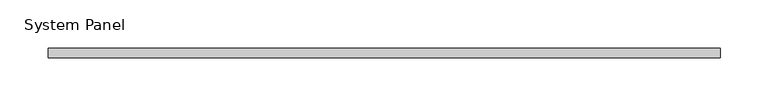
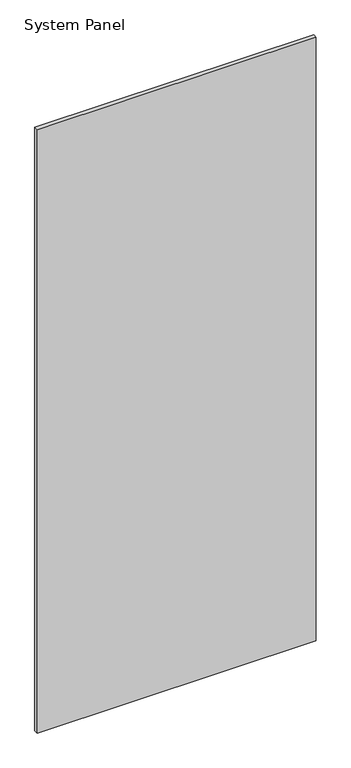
"""IFC4 building model written with IfcOpenShell, lengths in millimetres: plate geometry, System Panel : стекло_смещение_0."""

from ifc_helpers import new_model, si_unit, origin, origin_with_axes, place, context, project, spatial, polyline, outline, extrude, source, transform, mapped, element, save


def system_panel_c35ffc4f(model_context):
    return source(origin(), model_context, "Body", "SweptSolid", [
        extrude(outline(polyline([(350.0, -5.0), (-350.0, -5.0), (-350.0, 5.0), (350.0, 5.0), (350.0, -5.0)])), origin_with_axes(), (0.0, 0.0, 1.0), 1600.0),
    ])


if __name__ == "__main__":
    model = new_model("IFC4")
    model_context = context("Model", 3, world=origin())
    ifc_project = project(units=[si_unit("LENGTHUNIT", "METRE", prefix="MILLI")], contexts=[model_context])
    site = spatial("IfcSite", under=ifc_project)
    building = spatial("IfcBuilding", under=site)
    placement = place(None, origin())
    system_panel_shape = system_panel_c35ffc4f(model_context)
    element("IfcPlate", 1, ObjectType="System Panel : стекло_смещение_0", at=placement, inside=building, context=model_context, shape_type="MappedRepresentation", body=[
        mapped(system_panel_shape, transform((0.0, 0.0, 0.0), x_axis=(1.0, 0.0, 0.0), y_axis=(0.0, 1.0, 0.0), z_axis=(0.0, 0.0, 1.0))),
    ])
    save(model, "model.ifc")
